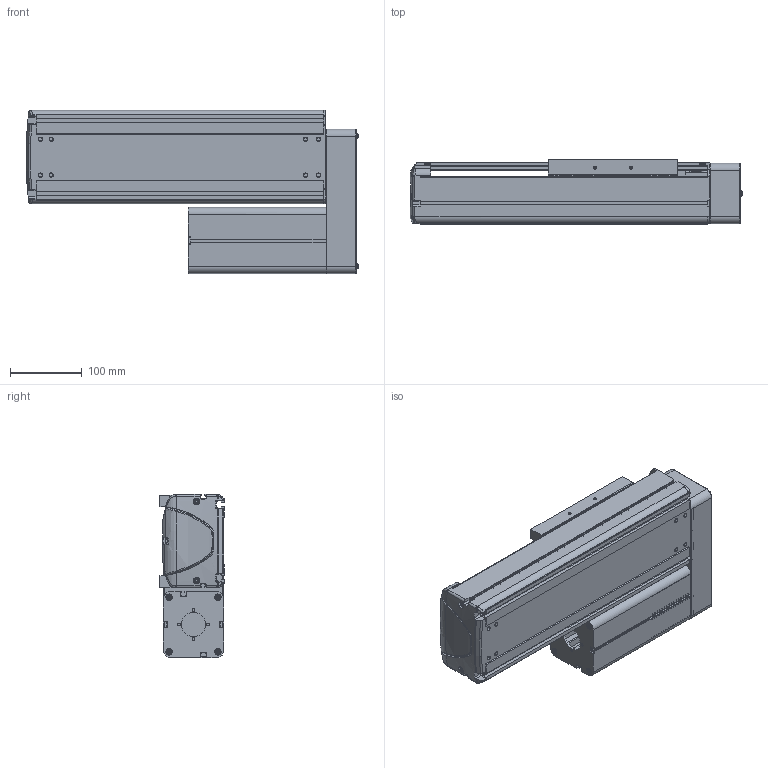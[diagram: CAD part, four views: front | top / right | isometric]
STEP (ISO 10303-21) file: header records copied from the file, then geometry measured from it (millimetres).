
FILE_DESCRIPTION((''),'2;1');
FILE_NAME('BE30E-UL-L_B-15_IGS_PRT','2017-06-17T',(' '),(''),'PRO/ENGINEER BY PARAMETRIC TECHNOLOGY CORPORATION, 2015030','PRO/ENGINEER BY PARAMETRIC TECHNOLOGY CORPORATION, 2015030','');
FILE_SCHEMA(('CONFIG_CONTROL_DESIGN'));
Products named in the file (1): BE30E-UL-L_B-15_IGS_PRT
Bounding box: 461.9 x 89.8 x 227 mm (x, y, z)
Volume: 2001935.9 mm3; surface area: 904593 mm2
Topology: 2 solids, 106 shells, 1967 faces, 5281 edges, 3426 vertices
Faces by surface type: plane 992, cylinder 781, cone 101, torus 39, bspline 30, sphere 24
Entity records: 63524 total; most frequent: CARTESIAN_POINT 13447, DIRECTION 10581, ORIENTED_EDGE 10094, EDGE_CURVE 5243, AXIS2_PLACEMENT_3D 3698, VERTEX_POINT 3426, VECTOR 3185, LINE 3185
